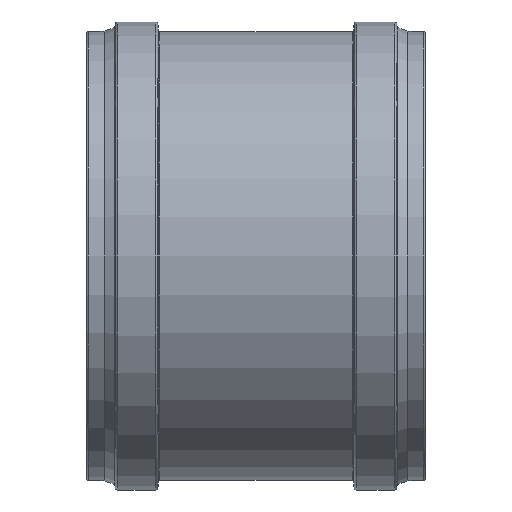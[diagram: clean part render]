
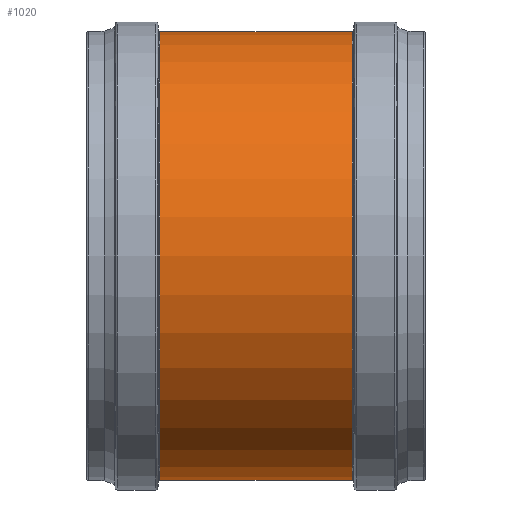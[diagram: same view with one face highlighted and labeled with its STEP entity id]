
A CAD part, left-side view. The second image highlights one B-rep face of the part: STEP entity #1020.
In plain terms, the highlighted cylindrical face has radius 335.3 mm (diameter 670.6 mm), a full revolution.
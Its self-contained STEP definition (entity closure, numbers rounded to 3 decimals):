
#33=CYLINDRICAL_SURFACE('',#1170,335.3);
#54=LINE('',#1855,#82);
#82=VECTOR('',#1481,335.3);
#140=FACE_OUTER_BOUND('',#203,.T.);
#203=EDGE_LOOP('',(#798,#799,#800,#801,#802,#803));
#237=CIRCLE('',#1075,335.3);
#241=CIRCLE('',#1079,335.3);
#304=CIRCLE('',#1171,335.3);
#305=CIRCLE('',#1172,335.3);
#371=VERTEX_POINT('',#1688);
#372=VERTEX_POINT('',#1689);
#425=VERTEX_POINT('',#1851);
#426=VERTEX_POINT('',#1852);
#479=EDGE_CURVE('',#371,#372,#237,.T.);
#483=EDGE_CURVE('',#372,#371,#241,.T.);
#559=EDGE_CURVE('',#425,#426,#304,.T.);
#560=EDGE_CURVE('',#426,#425,#305,.T.);
#561=EDGE_CURVE('',#426,#372,#54,.T.);
#798=ORIENTED_EDGE('',*,*,#559,.F.);
#799=ORIENTED_EDGE('',*,*,#560,.F.);
#800=ORIENTED_EDGE('',*,*,#561,.T.);
#801=ORIENTED_EDGE('',*,*,#483,.T.);
#802=ORIENTED_EDGE('',*,*,#479,.T.);
#803=ORIENTED_EDGE('',*,*,#561,.F.);
#1020=ADVANCED_FACE('',(#140),#33,.T.);
#1075=AXIS2_PLACEMENT_3D('',#1690,#1272,#1273);
#1079=AXIS2_PLACEMENT_3D('',#1696,#1280,#1281);
#1170=AXIS2_PLACEMENT_3D('',#1850,#1475,#1476);
#1171=AXIS2_PLACEMENT_3D('',#1853,#1477,#1478);
#1172=AXIS2_PLACEMENT_3D('',#1854,#1479,#1480);
#1272=DIRECTION('center_axis',(0.,1.,0.));
#1273=DIRECTION('ref_axis',(1.,0.,0.));
#1280=DIRECTION('center_axis',(0.,1.,0.));
#1281=DIRECTION('ref_axis',(1.,0.,0.));
#1475=DIRECTION('center_axis',(0.,1.,0.));
#1476=DIRECTION('ref_axis',(-1.,0.,0.));
#1477=DIRECTION('center_axis',(0.,1.,0.));
#1478=DIRECTION('ref_axis',(1.,0.,0.));
#1479=DIRECTION('center_axis',(0.,1.,0.));
#1480=DIRECTION('ref_axis',(1.,0.,0.));
#1481=DIRECTION('',(0.,-1.,0.));
#1688=CARTESIAN_POINT('',(0.,-143.727,-335.3));
#1689=CARTESIAN_POINT('',(335.3,-143.727,0.));
#1690=CARTESIAN_POINT('Origin',(0.,-143.727,
0.));
#1696=CARTESIAN_POINT('Origin',(0.,-143.727,
0.));
#1850=CARTESIAN_POINT('Origin',(0.,71.864,
0.));
#1851=CARTESIAN_POINT('',(0.,143.727,-335.3));
#1852=CARTESIAN_POINT('',(335.3,143.727,0.));
#1853=CARTESIAN_POINT('Origin',(0.,143.727,
0.));
#1854=CARTESIAN_POINT('Origin',(0.,143.727,
0.));
#1855=CARTESIAN_POINT('',(335.3,71.864,0.));
